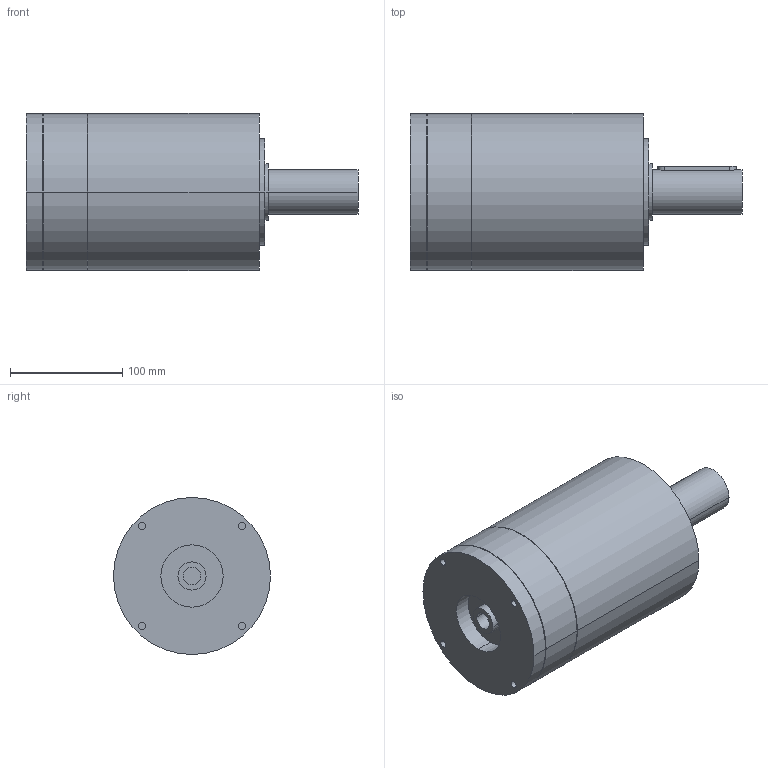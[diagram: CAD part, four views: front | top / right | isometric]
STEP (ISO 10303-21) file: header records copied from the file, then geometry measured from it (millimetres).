
FILE_DESCRIPTION(('CoCreate Modeling STEP Export'),'2;1');
FILE_NAME('GPR150_ig-9-12-16-20-28-35_40_B14_15.87_P01.stp','2014-08-19T17:02:42',(''),(''),'CoCreate Modeling STEP processor for AP214 (Solid Model)','CoCreate Modeling 16.00C 25-Feb-2009 (C) Parametric Technology GmbH','');
FILE_SCHEMA(('AUTOMOTIVE_DESIGN { 1 0 10303 214 1 1 1 1 }'));
Length unit declared in the file: millimetre
Products named in the file (2): GPR150_ig-9-12-16-20-28-35_40_B14_15.87_P01
Assembly tree (1 placements, depth 2):
  GPR150_ig-9-12-16-20-28-35_40_B14_15.87_P01
    GPR150_ig-9-12-16-20-28-35_40_B14_15.87_P01
Bounding box: 296 x 140 x 140 mm (x, y, z)
Volume: 3289069.4 mm3; surface area: 147547.4 mm2
Topology: 1 solids, 1 shells, 77 faces, 191 edges, 135 vertices
Faces by surface type: cylinder 46, plane 25, cone 6
Entity records: 1970 total; most frequent: CARTESIAN_POINT 380, ORIENTED_EDGE 378, DIRECTION 256, EDGE_CURVE 189, VERTEX_POINT 135, AXIS2_PLACEMENT_3D 99, EDGE_LOOP 98, FACE_OUTER_BOUND 77
